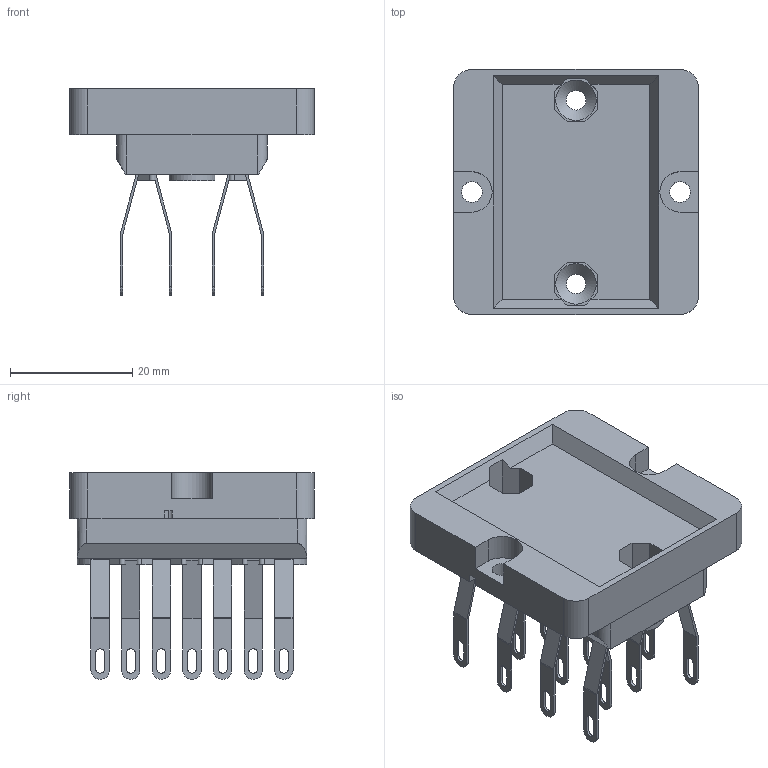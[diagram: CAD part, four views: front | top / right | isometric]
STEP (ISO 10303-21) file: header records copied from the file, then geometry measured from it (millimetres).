
FILE_DESCRIPTION((''),'2;1');
FILE_NAME('K:\TB\Bibliotheek\Inventor\Relais voeten\V3\V3.stp','2008-08-19T11:31:17',('Niriawan'),(''),'Autodesk Inventor 2009','Autodesk Inventor 2009','');
FILE_SCHEMA(('AUTOMOTIVE_DESIGN { 1 0 10303 214 1 1 1 1 }'));
Length unit declared in the file: millimetre
Products named in the file (1): V3
Bounding box: 40 x 40 x 33.76 mm (x, y, z)
Volume: 13611.4 mm3; surface area: 8773.3 mm2
Topology: 1 solids, 1 shells, 534 faces, 1438 edges, 940 vertices
Faces by surface type: plane 368, cylinder 162, bspline 4
Full cylindrical faces by diameter (mm): 1.9 x4, 3.4 x2, 7.5 x2
Entity records: 16969 total; most frequent: CARTESIAN_POINT 2957, ORIENTED_EDGE 2840, DIRECTION 2816, EDGE_CURVE 1420, VECTOR 1086, LINE 1086, VERTEX_POINT 934, AXIS2_PLACEMENT_3D 865
